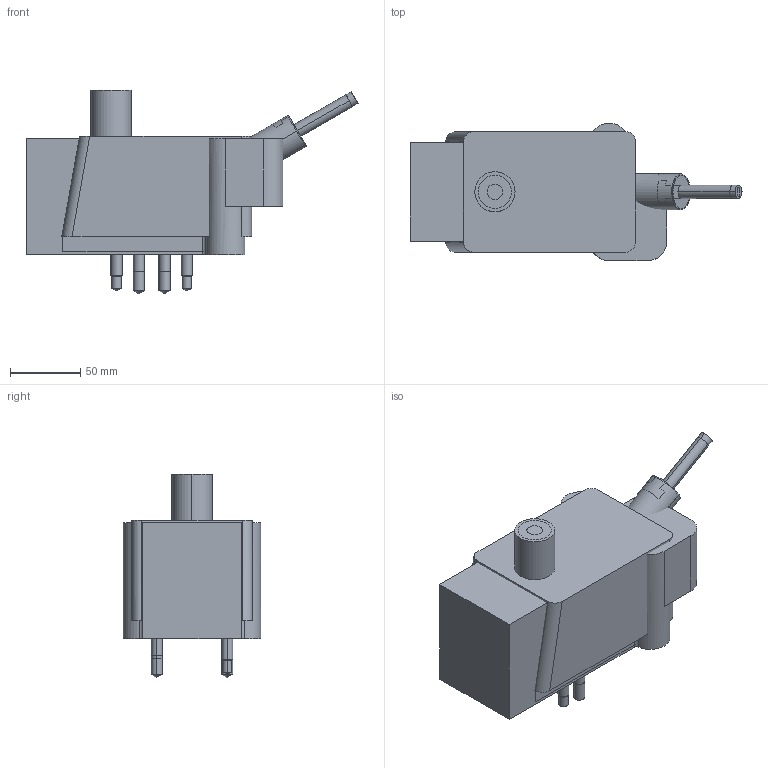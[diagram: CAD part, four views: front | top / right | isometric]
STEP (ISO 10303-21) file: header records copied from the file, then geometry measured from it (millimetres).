
FILE_DESCRIPTION((' '),'2;1');
FILE_NAME( 'EZ-30-S-L.stp', '2024-07-17T08:03:27', (' '), ('--- Datakit www.datakit.com---'), ' Datakit CrossCadWare V2020.4 Oct 21 2020', 'Export from SolidLink (Hexagon Production Software)', ' ');
FILE_SCHEMA(('AP242_MANAGED_MODEL_BASED_3D_ENGINEERING_MIM_LF { 1 0 10303 442 1 1 4 }'));
Length unit declared in the file: millimetre
Products named in the file (136): Workplanes; 1700842404; 1700504381; 1679436926; 1679436925; 1679436924; 1679436923; 1679436922; 1679436917; 1679436914; 1679436901; 1679436900; 1679436899; 1679436894; 1679436893; 1700493426; 1701204786; 1701283464; 1721289319; 1721294643; 1721294644; 1721294645; 1721294646; 1721294647; 1721294648; 1721294649; 1721294650; 1721294651; 1721294652; 1721294653; 1721294654; 1721294655; 1721294656; 1721294657; 1721294658; 1721294659; 1721294660; 1721294661; 1721294662; 1721294663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
Bounding box: 236.08 x 97.75 x 144.89 mm (x, y, z)
Volume: 2567289.6 mm3; surface area: 231048.9 mm2
Topology: 17 solids, 18 shells, 451 faces, 1303 edges, 1112 vertices
Faces by surface type: cylinder 182, plane 153, cone 104, sphere 6, torus 4, bspline 2
Entity records: 18181 total; most frequent: CARTESIAN_POINT 4655, DIRECTION 2719, ORIENTED_EDGE 2122, AXIS2_PLACEMENT_3D 1076, EDGE_CURVE 1067, VERTEX_POINT 684, VECTOR 567, LINE 567
